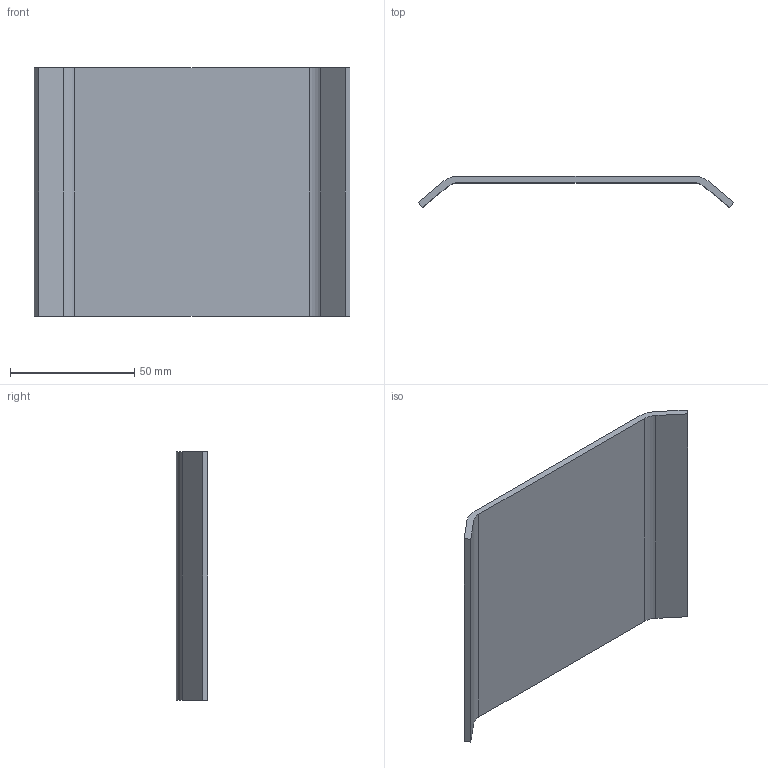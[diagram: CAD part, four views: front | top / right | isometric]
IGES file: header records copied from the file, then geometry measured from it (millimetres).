
Global section: file name: No Iges File Name specified; native system: Autodesk Inventor 2012; preprocessor: AutoDesk Inventor Iges Exporter R2012; author: anna.b; date: 20130726.133226; units: millimetre
Bounding box: 127 x 12.7 x 100 mm (x, y, z)
Volume: 35709.6 mm3; surface area: 27705.8 mm2
Topology: 1 solids, 1 shells, 14 faces, 36 edges, 24 vertices
Faces by surface type: plane 10, revolution 2, cylinder 2
